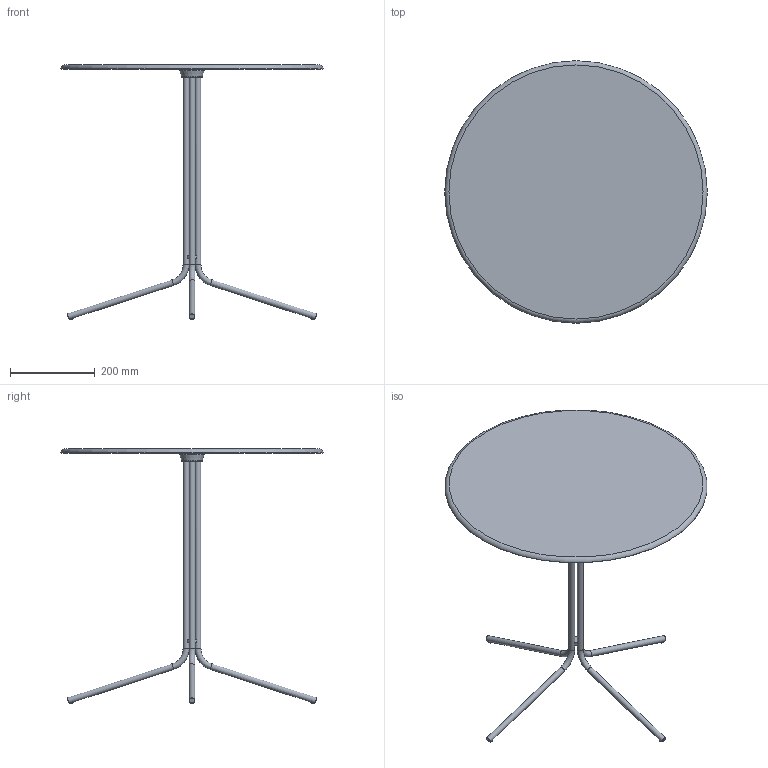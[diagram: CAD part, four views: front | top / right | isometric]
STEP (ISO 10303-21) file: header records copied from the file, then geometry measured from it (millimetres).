
FILE_DESCRIPTION((''),'2;1');
FILE_NAME('C:\AutodeskVault\AreaLavoro\Progetti\SoVeT Italia\2. Tavolini_Coffee tables\Genius\Genius Round\Web file\Genius Round Web\P4710.stp','2012-06-19T12:04:21',('Gianluca'),('So.Ve.T. s.r.l.'),'Autodesk Inventor 2013','Autodesk Inventor 2013','IL PROGETTO E'' DI ESCLUSIVA PROPRIETA'' DELLA SO.VE.T. srl. E'' VIETATA OGNI RIPRODUZIONE TOTALE O PARZIALE E QUALSIASI UTILIZZO NON AUTORIZZATO. ');
FILE_SCHEMA(('AUTOMOTIVE_DESIGN { 1 0 10303 214 1 1 1 1 }'));
Length unit declared in the file: millimetre
Products named in the file (1): P4710 LCTR Contorno semplificato
Bounding box: 620 x 620 x 600 mm (x, y, z)
Volume: 3491229 mm3; surface area: 750522.1 mm2
Topology: 1 solids, 1 shells, 68 faces, 193 edges, 122 vertices
Faces by surface type: plane 21, cylinder 17, cone 15, torus 11, sphere 4
Full cylindrical faces by diameter (mm): 10 x4, 14 x8, 58 x1
Entity records: 1972 total; most frequent: CARTESIAN_POINT 419, DIRECTION 316, ORIENTED_EDGE 258, AXIS2_PLACEMENT_3D 150, EDGE_CURVE 129, EDGE_LOOP 104, VERTEX_POINT 93, CIRCLE 69
